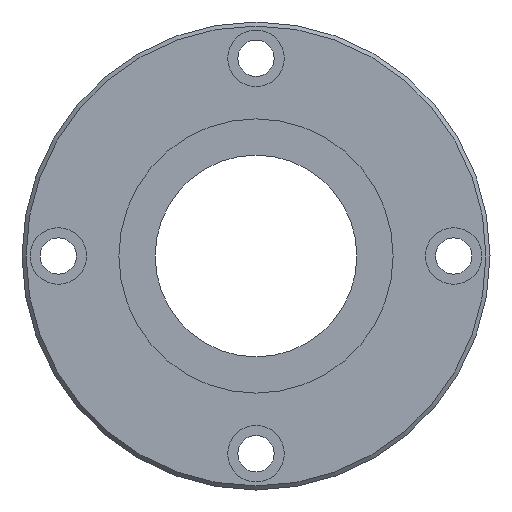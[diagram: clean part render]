
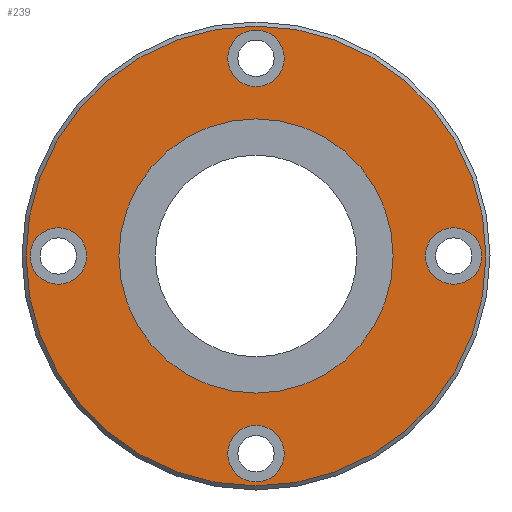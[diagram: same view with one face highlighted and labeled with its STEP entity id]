
A CAD part, left-side view. The second image highlights one B-rep face of the part: STEP entity #239.
In plain terms, the highlighted planar face has unit normal (-1, 0, 0).
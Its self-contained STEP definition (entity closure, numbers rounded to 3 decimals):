
#164=CARTESIAN_POINT('',(0.0,0.,57.));
#165=VERTEX_POINT('',#164);
#166=CARTESIAN_POINT('',(0.0,0.0,0.0));
#167=DIRECTION('',(1.0,0.0,0.0));
#168=DIRECTION('',(0.0,0.0,-1.0));
#169=AXIS2_PLACEMENT_3D('',#166,#167,#168);
#170=CIRCLE('',#169,57.);
#171=EDGE_CURVE('',#165,#165,#170,.T.);
#176=CARTESIAN_POINT('',(0.0,0.0,37.));
#177=DIRECTION('',(-1.0,0.0,0.0));
#178=DIRECTION('',(0.0,0.0,1.0));
#179=AXIS2_PLACEMENT_3D('',#176,#177,#178);
#180=PLANE('',#179);
#181=ORIENTED_EDGE('',*,*,#171,.F.);
#182=EDGE_LOOP('',(#181));
#183=FACE_OUTER_BOUND('',#182,.T.);
#184=CARTESIAN_POINT('',(0.0,0.0,34.));
#185=VERTEX_POINT('',#184);
#186=CARTESIAN_POINT('',(0.0,0.0,0.0));
#187=DIRECTION('',(-1.0,0.0,0.0));
#188=DIRECTION('',(0.0,0.0,1.0));
#189=AXIS2_PLACEMENT_3D('',#186,#187,#188);
#190=CIRCLE('',#189,34.);
#191=EDGE_CURVE('',#185,#185,#190,.T.);
#192=ORIENTED_EDGE('',*,*,#191,.F.);
#193=EDGE_LOOP('',(#192));
#194=FACE_BOUND('',#193,.T.);
#195=CARTESIAN_POINT('',(0.0,56.,0.));
#196=VERTEX_POINT('',#195);
#197=CARTESIAN_POINT('',(0.0,49.0,0.));
#198=DIRECTION('',(1.0,0.0,0.0));
#199=DIRECTION('',(0.0,1.0,0.0));
#200=AXIS2_PLACEMENT_3D('',#197,#198,#199);
#201=CIRCLE('',#200,7.);
#202=EDGE_CURVE('',#196,#196,#201,.T.);
#203=ORIENTED_EDGE('',*,*,#202,.T.);
#204=EDGE_LOOP('',(#203));
#205=FACE_BOUND('',#204,.T.);
#206=CARTESIAN_POINT('',(0.0,-42.0,0.));
#207=VERTEX_POINT('',#206);
#208=CARTESIAN_POINT('',(0.0,-49.0,0.));
#209=DIRECTION('',(1.0,0.0,0.0));
#210=DIRECTION('',(0.0,1.0,0.0));
#211=AXIS2_PLACEMENT_3D('',#208,#209,#210);
#212=CIRCLE('',#211,7.);
#213=EDGE_CURVE('',#207,#207,#212,.T.);
#214=ORIENTED_EDGE('',*,*,#213,.T.);
#215=EDGE_LOOP('',(#214));
#216=FACE_BOUND('',#215,.T.);
#217=CARTESIAN_POINT('',(0.0,7.,49.0));
#218=VERTEX_POINT('',#217);
#219=CARTESIAN_POINT('',(0.0,0.,49.0));
#220=DIRECTION('',(1.0,0.0,0.0));
#221=DIRECTION('',(0.0,1.0,0.0));
#222=AXIS2_PLACEMENT_3D('',#219,#220,#221);
#223=CIRCLE('',#222,7.);
#224=EDGE_CURVE('',#218,#218,#223,.T.);
#225=ORIENTED_EDGE('',*,*,#224,.T.);
#226=EDGE_LOOP('',(#225));
#227=FACE_BOUND('',#226,.T.);
#228=CARTESIAN_POINT('',(0.0,7.,-49.0));
#229=VERTEX_POINT('',#228);
#230=CARTESIAN_POINT('',(0.0,0.,-49.0));
#231=DIRECTION('',(1.0,0.0,0.0));
#232=DIRECTION('',(0.0,1.0,0.0));
#233=AXIS2_PLACEMENT_3D('',#230,#231,#232);
#234=CIRCLE('',#233,7.);
#235=EDGE_CURVE('',#229,#229,#234,.T.);
#236=ORIENTED_EDGE('',*,*,#235,.T.);
#237=EDGE_LOOP('',(#236));
#238=FACE_BOUND('',#237,.T.);
#239=ADVANCED_FACE('',(#183,#194,#205,#216,#227,#238),#180,.T.);
